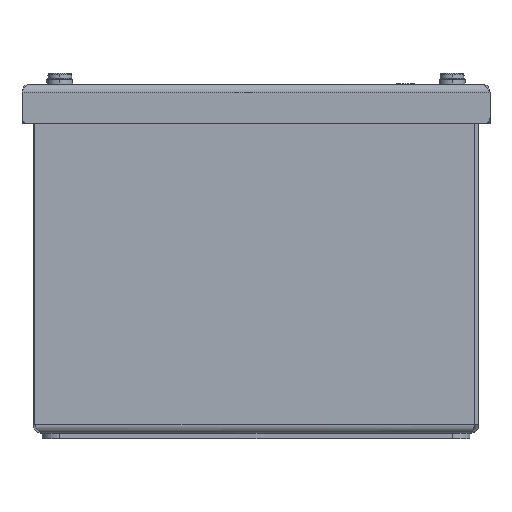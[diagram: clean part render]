
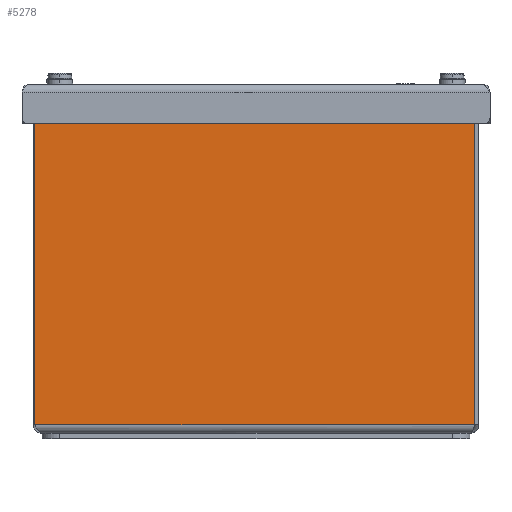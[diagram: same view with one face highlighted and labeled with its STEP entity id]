
A CAD part, left-side view. The second image highlights one B-rep face of the part: STEP entity #5278.
In plain terms, the highlighted planar face has unit normal (-1, 0, 0).
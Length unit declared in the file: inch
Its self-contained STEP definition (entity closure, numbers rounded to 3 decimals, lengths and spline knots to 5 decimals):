
#260=DIRECTION('',(0.,-1.,0.));
#261=VECTOR('',#260,6.168);
#262=CARTESIAN_POINT('',(0.,6.228,0.12));
#263=LINE('',#262,#261);
#1594=DIRECTION('',(0.,-1.,0.));
#1595=VECTOR('',#1594,5.47175);
#1596=CARTESIAN_POINT('',(0.,6.228,4.638));
#1597=LINE('',#1596,#1595);
#1681=DIRECTION('',(0.,0.,1.));
#1682=VECTOR('',#1681,0.052);
#1683=CARTESIAN_POINT('',(0.,0.75625,4.638));
#1684=LINE('',#1683,#1682);
#1688=DIRECTION('',(0.,1.,0.));
#1689=VECTOR('',#1688,0.64425);
#1690=CARTESIAN_POINT('',(0.,0.112,4.69));
#1691=LINE('',#1690,#1689);
#1695=CARTESIAN_POINT('',(0.,0.112,4.638));
#1696=DIRECTION('',(-1.,0.,0.));
#1697=DIRECTION('',(0.,-1.,0.));
#1698=AXIS2_PLACEMENT_3D('',#1695,#1696,#1697);
#1703=DIRECTION('',(0.,0.,1.));
#1704=VECTOR('',#1703,4.518);
#1705=CARTESIAN_POINT('',(0.,6.228,0.12));
#1706=LINE('',#1705,#1704);
#1752=DIRECTION('',(0.,0.,1.));
#1753=VECTOR('',#1752,4.518);
#1754=CARTESIAN_POINT('',(0.,0.06,0.12));
#1755=LINE('',#1754,#1753);
#3439=CARTESIAN_POINT('',(0.,0.75625,4.638));
#3440=CARTESIAN_POINT('',(0.,0.75625,4.69));
#3441=VERTEX_POINT('',#3439);
#3442=VERTEX_POINT('',#3440);
#3487=CARTESIAN_POINT('',(0.,0.06,4.638));
#3488=CARTESIAN_POINT('',(0.,0.112,4.69));
#3489=VERTEX_POINT('',#3487);
#3490=VERTEX_POINT('',#3488);
#3495=CARTESIAN_POINT('',(0.,0.06,0.12));
#3496=VERTEX_POINT('',#3495);
#3499=CARTESIAN_POINT('',(0.,6.228,0.12));
#3500=CARTESIAN_POINT('',(0.,6.228,4.638));
#3501=VERTEX_POINT('',#3499);
#3502=VERTEX_POINT('',#3500);
#5259=CARTESIAN_POINT('',(0.,6.25,0.));
#5260=DIRECTION('',(-1.,0.,0.));
#5261=DIRECTION('',(0.,-1.,0.));
#5262=AXIS2_PLACEMENT_3D('',#5259,#5260,#5261);
#5263=PLANE('',#5262);
#5264=ORIENTED_EDGE('',*,*,#5248,.T.);
#5266=ORIENTED_EDGE('',*,*,#5265,.T.);
#5268=ORIENTED_EDGE('',*,*,#5267,.F.);
#5270=ORIENTED_EDGE('',*,*,#5269,.F.);
#5272=ORIENTED_EDGE('',*,*,#5271,.F.);
#5273=ORIENTED_EDGE('',*,*,#4028,.F.);
#5275=ORIENTED_EDGE('',*,*,#5274,.T.);
#5276=EDGE_LOOP('',(#5264,#5266,#5268,#5270,#5272,#5273,#5275));
#5277=FACE_OUTER_BOUND('',#5276,.F.);
#1699=CIRCLE('',#1698,0.052);
#4028=EDGE_CURVE('',#3501,#3496,#263,.T.);
#5248=EDGE_CURVE('',#3502,#3441,#1597,.T.);
#5265=EDGE_CURVE('',#3441,#3442,#1684,.T.);
#5267=EDGE_CURVE('',#3490,#3442,#1691,.T.);
#5269=EDGE_CURVE('',#3489,#3490,#1699,.T.);
#5271=EDGE_CURVE('',#3496,#3489,#1755,.T.);
#5274=EDGE_CURVE('',#3501,#3502,#1706,.T.);
#5278=ADVANCED_FACE('',(#5277),#5263,.T.);
